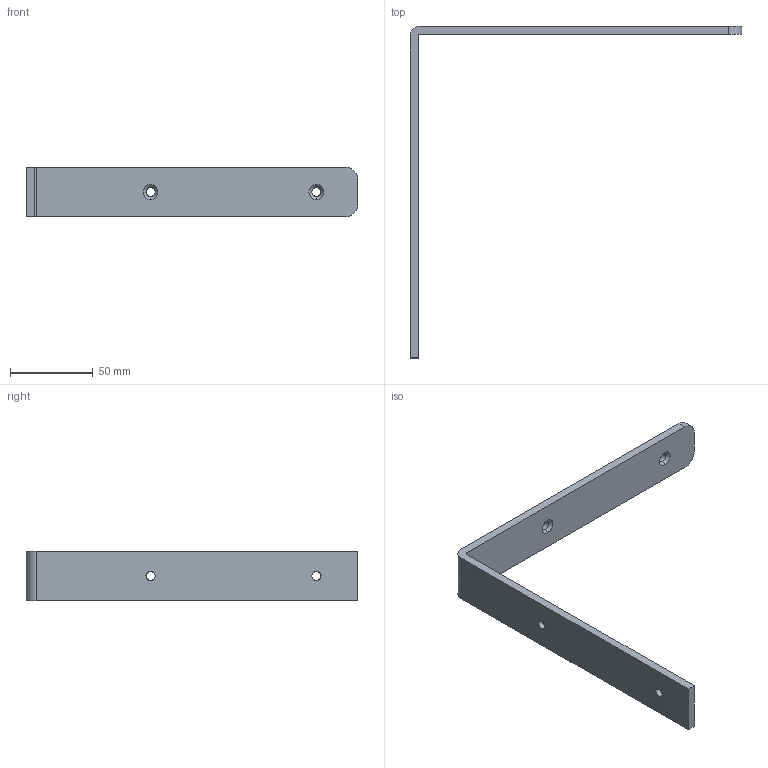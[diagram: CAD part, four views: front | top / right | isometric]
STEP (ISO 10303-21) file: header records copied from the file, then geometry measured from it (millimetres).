
FILE_DESCRIPTION (( 'STEP AP214' ), '1' );
FILE_NAME ('G324-200.STEP', '2024-08-21T08:35:51', ( '' ), ( '' ), 'SwSTEP 2.0', 'SolidWorks 2023', '' );
FILE_SCHEMA (( 'AUTOMOTIVE_DESIGN' ));
Length unit declared in the file: millimetre
Products named in the file (1): G324-200
Bounding box: 200 x 200 x 30 mm (x, y, z)
Volume: 58283.9 mm3; surface area: 27856.2 mm2
Topology: 1 solids, 1 shells, 28 faces, 78 edges, 52 vertices
Faces by surface type: cylinder 12, cone 8, plane 8
Entity records: 961 total; most frequent: DIRECTION 176, CARTESIAN_POINT 159, ORIENTED_EDGE 156, EDGE_CURVE 78, AXIS2_PLACEMENT_3D 69, VERTEX_POINT 52, CIRCLE 40, LINE 38
